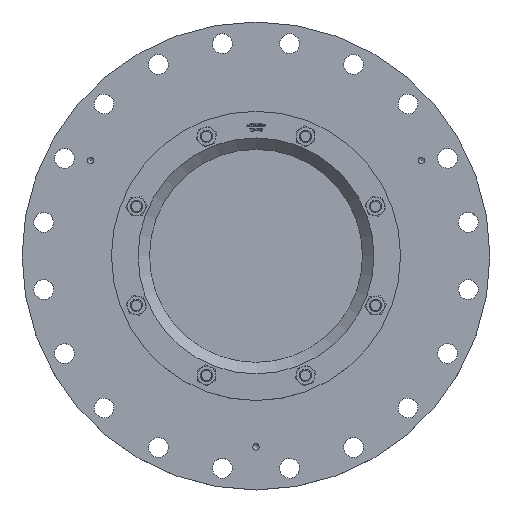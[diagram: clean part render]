
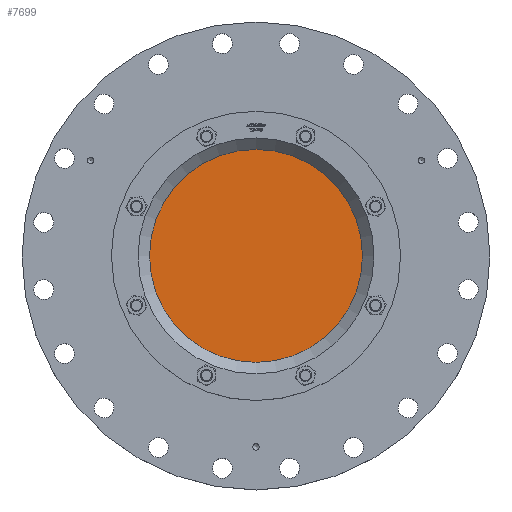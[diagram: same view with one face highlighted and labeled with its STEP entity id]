
A CAD part, top view. The second image highlights one B-rep face of the part: STEP entity #7699.
In plain terms, the highlighted planar face has unit normal (0, 0, 1).
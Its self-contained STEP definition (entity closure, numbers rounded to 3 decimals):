
#2263=FACE_OUTER_BOUND('',#2720,.T.);
#2720=EDGE_LOOP('',(#5326));
#3325=CIRCLE('',#8159,140.);
#3515=VERTEX_POINT('',#10268);
#4239=EDGE_CURVE('',#3515,#3515,#3325,.T.);
#5326=ORIENTED_EDGE('',*,*,#4239,.F.);
#7500=PLANE('',#8158);
#7699=ADVANCED_FACE('',(#2263),#7500,.F.);
#8158=AXIS2_PLACEMENT_3D('',#10267,#8699,#8700);
#8159=AXIS2_PLACEMENT_3D('',#10269,#8701,#8702);
#8699=DIRECTION('center_axis',(0.,0.,-1.));
#8700=DIRECTION('ref_axis',(-1.,0.,0.));
#8701=DIRECTION('center_axis',(0.,0.,-1.));
#8702=DIRECTION('ref_axis',(-1.,0.,0.));
#10267=CARTESIAN_POINT('Origin',(0.,0.,95.));
#10268=CARTESIAN_POINT('',(140.,0.,95.));
#10269=CARTESIAN_POINT('Origin',(0.,0.,95.));
